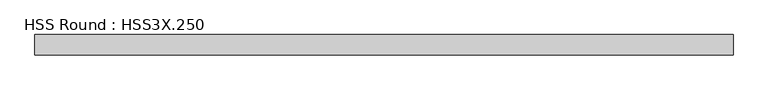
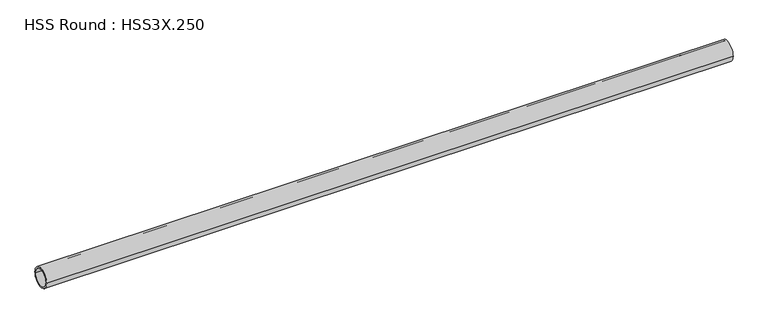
"""IFC4 building model written with IfcOpenShell, lengths in millimetres: member geometry, HSS Round : HSS3X.250."""

from ifc_helpers import new_model, si_unit, point, frame, origin, origin_2d, place, context, project, spatial, circle_curve, trimmed, segment, composite_curve, outline, extrude, source, transform, mapped, element, save


def hss_round_hss3x_250_3620c812(model_context):
    return source(origin(), model_context, "Body", "SweptSolid", [
        extrude(outline(composite_curve([segment(trimmed(circle_curve(origin_2d(), 38.1), [point((-38.1, 0.0))], [point((38.1, 0.0))], False, "CARTESIAN"), True, "CONTINUOUS"), segment(trimmed(circle_curve(origin_2d(), 38.1), [point((38.1, 0.0))], [point((-38.1, 0.0))], False, "CARTESIAN"), True, "CONTINUOUS")], self_intersect=False), holes=[composite_curve([segment(trimmed(circle_curve(origin_2d(), 31.75), [point((31.75, 0.0))], [point((-31.75, 0.0))], True, "CARTESIAN"), True, "CONTINUOUS"), segment(trimmed(circle_curve(origin_2d(), 31.75), [point((-31.75, 0.0))], [point((31.75, 0.0))], True, "CARTESIAN"), True, "CONTINUOUS")], self_intersect=False)]), frame((-1265.3676435, 0.0, 0.0), z_axis=(1.0, 0.0, 0.0), x_axis=(0.0, 1.0, 0.0)), (0.0, 0.0, 1.0), 2588.7462643),
    ])


if __name__ == "__main__":
    model = new_model("IFC4")
    model_context = context("Model", 3, world=origin())
    ifc_project = project(units=[si_unit("LENGTHUNIT", "METRE", prefix="MILLI")], contexts=[model_context])
    site = spatial("IfcSite", under=ifc_project)
    building = spatial("IfcBuilding", under=site)
    placement = place(None, origin())
    hss_round_hss3x_250_shape = hss_round_hss3x_250_3620c812(model_context)
    element("IfcMember", 1, ObjectType="HSS Round : HSS3X.250", at=placement, inside=building, context=model_context, shape_type="MappedRepresentation", body=[
        mapped(hss_round_hss3x_250_shape, transform((0.0, 0.0, 0.0), x_axis=(1.0, 0.0, 0.0), y_axis=(0.0, 1.0, 0.0), z_axis=(0.0, 0.0, 1.0))),
    ])
    save(model, "model.ifc")
